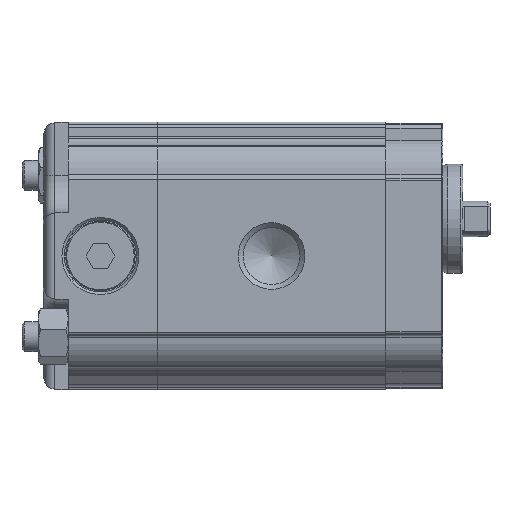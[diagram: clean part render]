
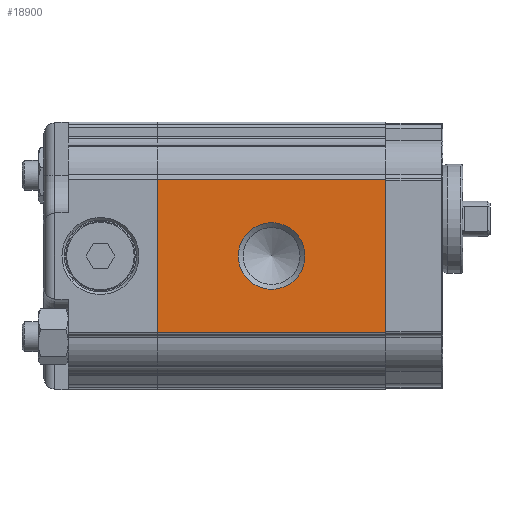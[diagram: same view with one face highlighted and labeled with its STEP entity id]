
A CAD part, left-side view. The second image highlights one B-rep face of the part: STEP entity #18900.
In plain terms, the highlighted planar face has unit normal (-1, 0, 0).
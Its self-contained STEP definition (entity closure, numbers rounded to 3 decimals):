
#1234=LINE('',#27752,#2253);
#1235=LINE('',#27756,#2254);
#1236=LINE('',#27758,#2255);
#1237=LINE('',#27760,#2256);
#2253=VECTOR('',#23065,1000.);
#2254=VECTOR('',#23070,1000.);
#2255=VECTOR('',#23071,1000.);
#2256=VECTOR('',#23072,1000.);
#4794=ORIENTED_EDGE('',*,*,#7641,.T.);
#4795=ORIENTED_EDGE('',*,*,#7642,.F.);
#4796=ORIENTED_EDGE('',*,*,#7640,.F.);
#4797=ORIENTED_EDGE('',*,*,#7643,.T.);
#4798=ORIENTED_EDGE('',*,*,#7644,.T.);
#7640=EDGE_CURVE('',#9209,#9208,#1234,.T.);
#7641=EDGE_CURVE('',#9210,#9210,#10214,.F.);
#7642=EDGE_CURVE('',#9208,#9211,#1235,.T.);
#7643=EDGE_CURVE('',#9209,#9212,#1236,.T.);
#7644=EDGE_CURVE('',#9212,#9211,#1237,.T.);
#9208=VERTEX_POINT('',#27749);
#9209=VERTEX_POINT('',#27751);
#9210=VERTEX_POINT('',#27755);
#9211=VERTEX_POINT('',#27757);
#9212=VERTEX_POINT('',#27759);
#10214=CIRCLE('',#20141,6.723);
#11048=EDGE_LOOP('',(#4794));
#11049=EDGE_LOOP('',(#4795,#4796,#4797,#4798));
#12046=FACE_BOUND('',#11048,.T.);
#12047=FACE_BOUND('',#11049,.T.);
#12716=PLANE('',#20140);
#18900=ADVANCED_FACE('',(#12046,#12047),#12716,.T.);
#20140=AXIS2_PLACEMENT_3D('',#27753,#23066,#23067);
#20141=AXIS2_PLACEMENT_3D('',#27754,#23068,#23069);
#23065=DIRECTION('',(0.,-1.,0.));
#23066=DIRECTION('',(-1.,0.,0.));
#23067=DIRECTION('',(0.,0.,1.));
#23068=DIRECTION('',(-1.,0.,0.));
#23069=DIRECTION('',(0.,0.,1.));
#23070=DIRECTION('',(0.,0.,-1.));
#23071=DIRECTION('',(0.,0.,-1.));
#23072=DIRECTION('',(0.,-1.,0.));
#27749=CARTESIAN_POINT('',(-25.,0.,15.418));
#27751=CARTESIAN_POINT('',(-25.,46.,15.418));
#27752=CARTESIAN_POINT('',(-25.,46.,15.418));
#27753=CARTESIAN_POINT('',(-25.,46.,15.418));
#27754=CARTESIAN_POINT('',(-25.,23.,0.));
#27755=CARTESIAN_POINT('',(-25.,23.,6.723));
#27756=CARTESIAN_POINT('',(-25.,0.,15.418));
#27757=CARTESIAN_POINT('',(-25.,0.,-15.418));
#27758=CARTESIAN_POINT('',(-25.,46.,15.418));
#27759=CARTESIAN_POINT('',(-25.,46.,-15.418));
#27760=CARTESIAN_POINT('',(-25.,46.,-15.418));
